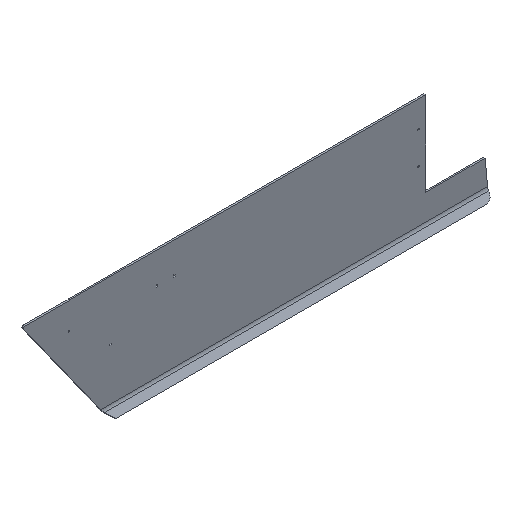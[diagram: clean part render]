
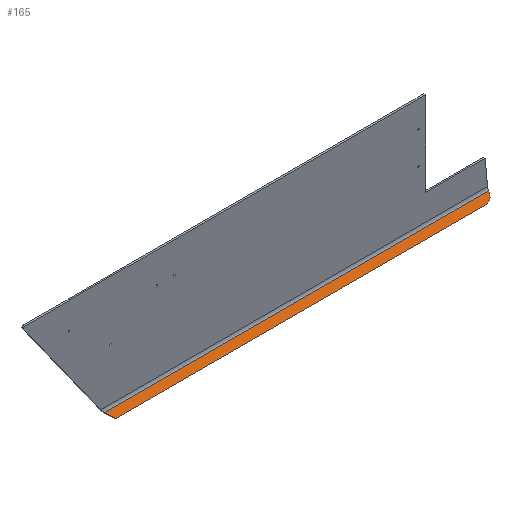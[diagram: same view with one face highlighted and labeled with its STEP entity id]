
A CAD part, isometric view. The second image highlights one B-rep face of the part: STEP entity #165.
In plain terms, the highlighted planar face has unit normal (0, -0.866, 0.5).
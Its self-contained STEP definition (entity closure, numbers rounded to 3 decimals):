
#94=CIRCLE('',#1582,50.);
#95=CIRCLE('',#1583,5.);
#165=ADVANCED_FACE('',(#285),#245,.F.);
#245=PLANE('',#1584);
#285=FACE_OUTER_BOUND('',#363,.T.);
#363=EDGE_LOOP('',(#458,#459,#460,#461,#462,#463));
#458=ORIENTED_EDGE('',*,*,#1056,.F.);
#459=ORIENTED_EDGE('',*,*,#1058,.T.);
#460=ORIENTED_EDGE('',*,*,#1059,.F.);
#461=ORIENTED_EDGE('',*,*,#1060,.F.);
#462=ORIENTED_EDGE('',*,*,#1061,.T.);
#463=ORIENTED_EDGE('',*,*,#1062,.T.);
#908=VERTEX_POINT('',#2179);
#909=VERTEX_POINT('',#2181);
#910=VERTEX_POINT('',#2185);
#911=VERTEX_POINT('',#2187);
#912=VERTEX_POINT('',#2189);
#913=VERTEX_POINT('',#2191);
#1056=EDGE_CURVE('',#908,#909,#1282,.T.);
#1058=EDGE_CURVE('',#908,#910,#94,.T.);
#1059=EDGE_CURVE('',#911,#910,#1284,.T.);
#1060=EDGE_CURVE('',#912,#911,#1285,.T.);
#1061=EDGE_CURVE('',#912,#913,#1286,.T.);
#1062=EDGE_CURVE('',#913,#909,#95,.T.);
#1282=LINE('',#2180,#1432);
#1284=LINE('',#2186,#1434);
#1285=LINE('',#2188,#1435);
#1286=LINE('',#2190,#1436);
#1432=VECTOR('',#1732,1.);
#1434=VECTOR('',#1738,1.);
#1435=VECTOR('',#1739,1.);
#1436=VECTOR('',#1740,1.);
#1582=AXIS2_PLACEMENT_3D('',#2184,#1736,#1737);
#1583=AXIS2_PLACEMENT_3D('',#2192,#1741,#1742);
#1584=AXIS2_PLACEMENT_3D('',#2193,#1743,#1744);
#1732=DIRECTION('',(-1.,0.,0.));
#1736=DIRECTION('',(0.,-0.866,0.5));
#1737=DIRECTION('',(0.,0.5,0.866));
#1738=DIRECTION('',(0.,-0.5,-0.866));
#1739=DIRECTION('',(1.,0.,0.));
#1740=DIRECTION('',(0.695,-0.36,-0.623));
#1741=DIRECTION('',(0.,-0.866,0.5));
#1742=DIRECTION('',(0.,0.5,0.866));
#1743=DIRECTION('',(0.,0.866,-0.5));
#1744=DIRECTION('',(0.,0.5,0.866));
#2179=CARTESIAN_POINT('',(401.47,-35.142,-876.868));
#2180=CARTESIAN_POINT('',(451.47,-35.142,-876.868));
#2181=CARTESIAN_POINT('',(-2279.929,-35.142,-876.868));
#2184=CARTESIAN_POINT('',(401.47,-10.142,-833.567));
#2185=CARTESIAN_POINT('',(451.47,-10.142,-833.567));
#2186=CARTESIAN_POINT('',(451.47,0.6,-814.961));
#2187=CARTESIAN_POINT('',(451.47,-6.699,-827.603));
#2188=CARTESIAN_POINT('',(-2349.651,-6.699,-827.603));
#2189=CARTESIAN_POINT('',(-2336.987,-6.699,-827.603));
#2190=CARTESIAN_POINT('',(-1569.091,-404.288,-1516.248));
#2191=CARTESIAN_POINT('',(-2283.526,-34.379,-875.546));
#2192=CARTESIAN_POINT('',(-2279.929,-32.642,-872.538));
#2193=CARTESIAN_POINT('',(0.,353.338,-204.));
